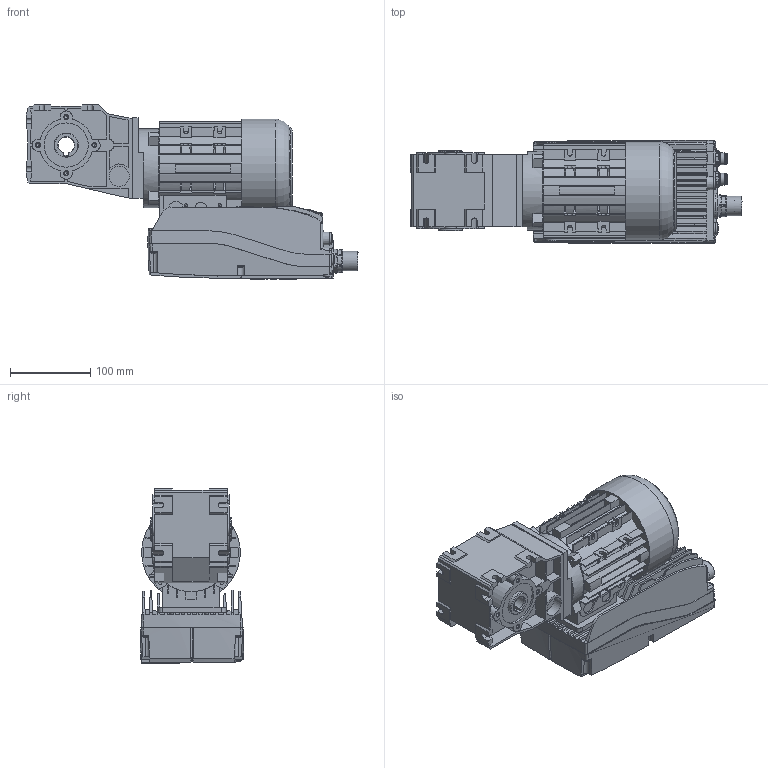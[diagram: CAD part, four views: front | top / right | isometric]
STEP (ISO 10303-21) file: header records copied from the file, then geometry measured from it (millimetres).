
FILE_DESCRIPTION(/* description */ ('Lenze G500-B45 m300 63-42 0,25kW'),/* implementation_level */ '2;1');
FILE_NAME(/* name */ '\\carryline.intra\privat\users\mathias\Desktop\Tillfälliga filer\Lenze G500-B45 m300 63-42 0,25kW.stp',/* time_stamp */ '2018-12-10T10:58:34+01:00',/* author */ (''),/* organization */ (''),/* preprocessor_version */ 'ST-DEVELOPER v17',/* originating_system */ 'Autodesk Inventor 2018',/* authorisation */ 'unknown authorization');
FILE_SCHEMA (('AUTOMOTIVE_DESIGN { 1 0 10303 214 3 1 1 }'));
Products named in the file (1): Lenze G500-B45 m300 63-42 0,25kW
Bounding box: 413.1 x 128.47 x 216.79 mm (x, y, z)
Volume: 4958854.6 mm3; surface area: 644382.8 mm2
Topology: 12 solids, 12 shells, 2343 faces, 6591 edges, 4423 vertices
Faces by surface type: plane 1655, cylinder 285, bspline 268, cone 112, torus 15, sphere 8
Full cylindrical faces by diameter (mm): 0.38 x1, 0.978 x1, 3.2 x1, 3.96 x4, 4 x10, 4.79 x8, 4.8 x9, 8 x2, 13 x2, 13.4 x2, 14.8 x2, 15 x4, 15.4 x1, 17 x1, 18 x2, 22.2 x1, 24 x1, 24.2 x1, 25 x2, 30 x6, 55 x5, 98 x2, 122.6 x1
Entity records: 91309 total; most frequent: CARTESIAN_POINT 31317, ORIENTED_EDGE 13158, DIRECTION 11456, EDGE_CURVE 6579, LINE 4534, VECTOR 4534, VERTEX_POINT 4423, AXIS2_PLACEMENT_3D 3461
